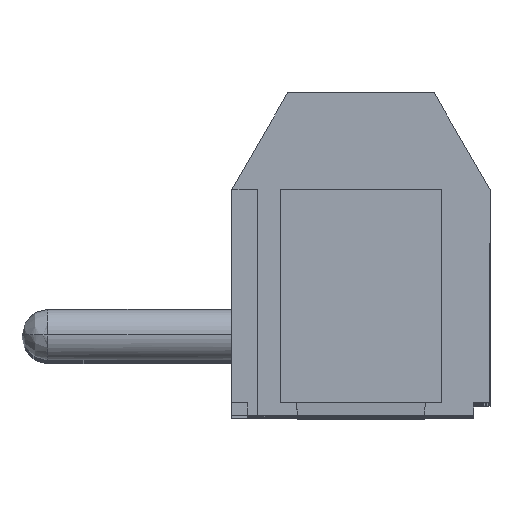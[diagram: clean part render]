
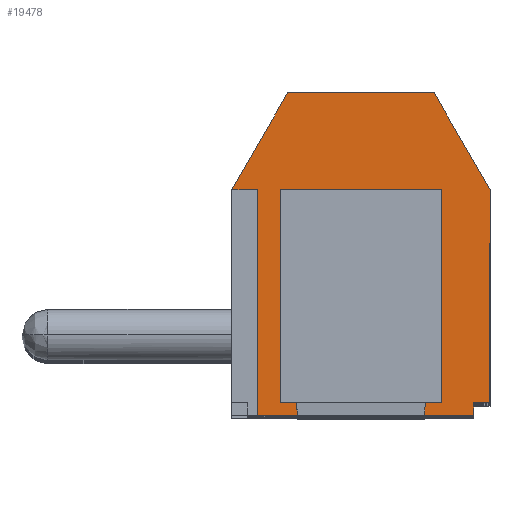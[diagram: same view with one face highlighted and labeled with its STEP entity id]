
A CAD part, top view. The second image highlights one B-rep face of the part: STEP entity #19478.
In plain terms, the highlighted planar face has unit normal (0, 0, 1).
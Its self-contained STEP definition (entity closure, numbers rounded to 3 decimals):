
#6296 = CARTESIAN_POINT ( 'NONE',  ( -3.471, -5.096, -5. ) ) ;
#6297 = DIRECTION ( 'NONE',  ( 1., 0., 0. ) ) ;
#6298 = VECTOR ( 'NONE', #6297, 1000. ) ;
#6299 = CARTESIAN_POINT ( 'NONE',  ( -0.271, -5.096, -5. ) ) ;
#6300 = LINE ( 'NONE', #6299, #6298 ) ;
#6307 = DIRECTION ( 'NONE',  ( 1., 0., 0. ) ) ;
#6308 = VECTOR ( 'NONE', #6307, 1000. ) ;
#6309 = CARTESIAN_POINT ( 'NONE',  ( -0.271, -4.696, -5. ) ) ;
#6310 = LINE ( 'NONE', #6309, #6308 ) ;
#6311 = CARTESIAN_POINT ( 'NONE',  ( 3.729, -4.696, -5. ) ) ;
#6327 = CARTESIAN_POINT ( 'NONE',  ( -0.271, -4.696, -5. ) ) ;
#6328 = LINE ( 'NONE', #6327, #6392 ) ;
#6351 = CARTESIAN_POINT ( 'NONE',  ( 3.229, -5.096, -5. ) ) ;
#6353 = DIRECTION ( 'NONE',  ( 0., 1., 0. ) ) ;
#6354 = VECTOR ( 'NONE', #6353, 1000. ) ;
#6355 = CARTESIAN_POINT ( 'NONE',  ( 3.229, -0.096, -5. ) ) ;
#6356 = LINE ( 'NONE', #6355, #6354 ) ;
#6357 = CARTESIAN_POINT ( 'NONE',  ( 3.229, -4.696, -5. ) ) ;
#6370 = CARTESIAN_POINT ( 'NONE',  ( 2.229, -4.696, -5. ) ) ;
#6371 = DIRECTION ( 'NONE',  ( 0., -1., 0. ) ) ;
#6372 = VECTOR ( 'NONE', #6371, 1000. ) ;
#6373 = CARTESIAN_POINT ( 'NONE',  ( 2.229, -0.096, -5. ) ) ;
#6374 = LINE ( 'NONE', #6373, #6372 ) ;
#6389 = CARTESIAN_POINT ( 'NONE',  ( 2.229, 1.904, -5. ) ) ;
#6390 = CARTESIAN_POINT ( 'NONE',  ( -2.771, -4.696, -5. ) ) ;
#6391 = DIRECTION ( 'NONE',  ( -1., 0., 0. ) ) ;
#6392 = VECTOR ( 'NONE', #6391, 1000. ) ;
#6415 = CARTESIAN_POINT ( 'NONE',  ( -2.771, 1.904, -5. ) ) ;
#6416 = DIRECTION ( 'NONE',  ( 1., 0., 0. ) ) ;
#6417 = VECTOR ( 'NONE', #6416, 1000. ) ;
#6418 = CARTESIAN_POINT ( 'NONE',  ( -0.271, 1.904, -5. ) ) ;
#6419 = LINE ( 'NONE', #6418, #6417 ) ;
#6493 = DIRECTION ( 'NONE',  ( 0., 1., 0. ) ) ;
#6494 = VECTOR ( 'NONE', #6493, 1000. ) ;
#6495 = CARTESIAN_POINT ( 'NONE',  ( -2.771, -0.096, -5. ) ) ;
#6496 = LINE ( 'NONE', #6495, #6494 ) ;
#7278 = DIRECTION ( 'NONE',  ( -0.5, 0.866, 0. ) ) ;
#7279 = VECTOR ( 'NONE', #7278, 1000. ) ;
#7280 = CARTESIAN_POINT ( 'NONE',  ( 3.729, 1.904, -5. ) ) ;
#7281 = LINE ( 'NONE', #7280, #7279 ) ;
#7282 = CARTESIAN_POINT ( 'NONE',  ( 1.997, 4.904, -5. ) ) ;
#7359 = CARTESIAN_POINT ( 'NONE',  ( 3.729, 1.904, -5. ) ) ;
#7365 = DIRECTION ( 'NONE',  ( 0., 1., 0. ) ) ;
#7366 = VECTOR ( 'NONE', #7365, 1000. ) ;
#7367 = CARTESIAN_POINT ( 'NONE',  ( 3.729, -0.096, -5. ) ) ;
#7368 = LINE ( 'NONE', #7367, #7366 ) ;
#12491 = CARTESIAN_POINT ( 'NONE',  ( -3.471, 1.904, -5. ) ) ;
#12554 = DIRECTION ( 'NONE',  ( 1., 0., 0. ) ) ;
#12555 = DIRECTION ( 'NONE',  ( 0., 0., 1. ) ) ;
#12556 = CARTESIAN_POINT ( 'NONE',  ( -4.271, -5.096, -5. ) ) ;
#12557 = AXIS2_PLACEMENT_3D ( 'NONE', #12556, #12555, #12554 ) ;
#12558 = PLANE ( 'NONE',  #12557 ) ;
#12559 = FACE_OUTER_BOUND ( 'NONE', #19489, .T. ) ;
#12560 = FACE_BOUND ( 'NONE', #19481, .T. ) ;
#12579 = DIRECTION ( 'NONE',  ( 1., 0., 0. ) ) ;
#12580 = VECTOR ( 'NONE', #12579, 1000. ) ;
#12581 = CARTESIAN_POINT ( 'NONE',  ( -3.871, 1.904, -5. ) ) ;
#12582 = LINE ( 'NONE', #12581, #12580 ) ;
#12583 = CARTESIAN_POINT ( 'NONE',  ( -4.271, 1.904, -5. ) ) ;
#12584 = DIRECTION ( 'NONE',  ( 0.5, 0.866, 0. ) ) ;
#12585 = VECTOR ( 'NONE', #12584, 1000. ) ;
#12586 = CARTESIAN_POINT ( 'NONE',  ( -3.405, 3.404, -5. ) ) ;
#12588 = LINE ( 'NONE', #12586, #12585 ) ;
#12589 = CARTESIAN_POINT ( 'NONE',  ( -2.539, 4.904, -5. ) ) ;
#12591 = DIRECTION ( 'NONE',  ( 1., 0., 0. ) ) ;
#12592 = VECTOR ( 'NONE', #12591, 1000. ) ;
#12593 = CARTESIAN_POINT ( 'NONE',  ( 1.997, 4.904, -5. ) ) ;
#12594 = LINE ( 'NONE', #12593, #12592 ) ;
#12615 = DIRECTION ( 'NONE',  ( 0., -1., 0. ) ) ;
#12616 = VECTOR ( 'NONE', #12615, 1000. ) ;
#12617 = CARTESIAN_POINT ( 'NONE',  ( -3.471, -0.096, -5. ) ) ;
#12618 = LINE ( 'NONE', #12617, #12616 ) ;
#15597 = VERTEX_POINT ( 'NONE', #6311 ) ;
#15599 = EDGE_CURVE ( 'NONE', #15624, #15597, #6310, .T. ) ;
#15614 = EDGE_CURVE ( 'NONE', #15615, #15627, #6300, .T. ) ;
#15615 = VERTEX_POINT ( 'NONE', #6296 ) ;
#15624 = VERTEX_POINT ( 'NONE', #6357 ) ;
#15626 = EDGE_CURVE ( 'NONE', #15627, #15624, #6356, .T. ) ;
#15627 = VERTEX_POINT ( 'NONE', #6351 ) ;
#15652 = EDGE_CURVE ( 'NONE', #15672, #15654, #6328, .T. ) ;
#15654 = VERTEX_POINT ( 'NONE', #6390 ) ;
#15656 = VERTEX_POINT ( 'NONE', #6389 ) ;
#15671 = EDGE_CURVE ( 'NONE', #15656, #15672, #6374, .T. ) ;
#15672 = VERTEX_POINT ( 'NONE', #6370 ) ;
#15698 = EDGE_CURVE ( 'NONE', #15701, #15656, #6419, .T. ) ;
#15701 = VERTEX_POINT ( 'NONE', #6415 ) ;
#15745 = EDGE_CURVE ( 'NONE', #15654, #15701, #6496, .T. ) ;
#16564 = VERTEX_POINT ( 'NONE', #7282 ) ;
#16568 = EDGE_CURVE ( 'NONE', #16683, #16564, #7281, .T. ) ;
#16676 = EDGE_CURVE ( 'NONE', #15597, #16683, #7368, .T. ) ;
#16683 = VERTEX_POINT ( 'NONE', #7359 ) ;
#19358 = VERTEX_POINT ( 'NONE', #12491 ) ;
#19456 = ORIENTED_EDGE ( 'NONE', *, *, #16568, .T. ) ;
#19457 = ORIENTED_EDGE ( 'NONE', *, *, #19458, .F. ) ;
#19458 = EDGE_CURVE ( 'NONE', #19460, #16564, #12594, .T. ) ;
#19460 = VERTEX_POINT ( 'NONE', #12589 ) ;
#19462 = ORIENTED_EDGE ( 'NONE', *, *, #19464, .F. ) ;
#19464 = EDGE_CURVE ( 'NONE', #19467, #19460, #12588, .T. ) ;
#19467 = VERTEX_POINT ( 'NONE', #12583 ) ;
#19469 = ORIENTED_EDGE ( 'NONE', *, *, #19470, .T. ) ;
#19470 = EDGE_CURVE ( 'NONE', #19467, #19358, #12582, .T. ) ;
#19478 = ADVANCED_FACE ( 'NONE', ( #12560, #12559 ), #12558, .T. ) ;
#19481 = EDGE_LOOP ( 'NONE', ( #19482, #19483, #19484, #19485 ) ) ;
#19482 = ORIENTED_EDGE ( 'NONE', *, *, #15652, .T. ) ;
#19483 = ORIENTED_EDGE ( 'NONE', *, *, #15745, .T. ) ;
#19484 = ORIENTED_EDGE ( 'NONE', *, *, #15698, .T. ) ;
#19485 = ORIENTED_EDGE ( 'NONE', *, *, #15671, .T. ) ;
#19489 = EDGE_LOOP ( 'NONE', ( #19491, #19492, #19493, #19494, #19495, #19456, #19457, #19462, #19469 ) ) ;
#19491 = ORIENTED_EDGE ( 'NONE', *, *, #19508, .T. ) ;
#19492 = ORIENTED_EDGE ( 'NONE', *, *, #15614, .T. ) ;
#19493 = ORIENTED_EDGE ( 'NONE', *, *, #15626, .T. ) ;
#19494 = ORIENTED_EDGE ( 'NONE', *, *, #15599, .T. ) ;
#19495 = ORIENTED_EDGE ( 'NONE', *, *, #16676, .T. ) ;
#19508 = EDGE_CURVE ( 'NONE', #19358, #15615, #12618, .T. ) ;
